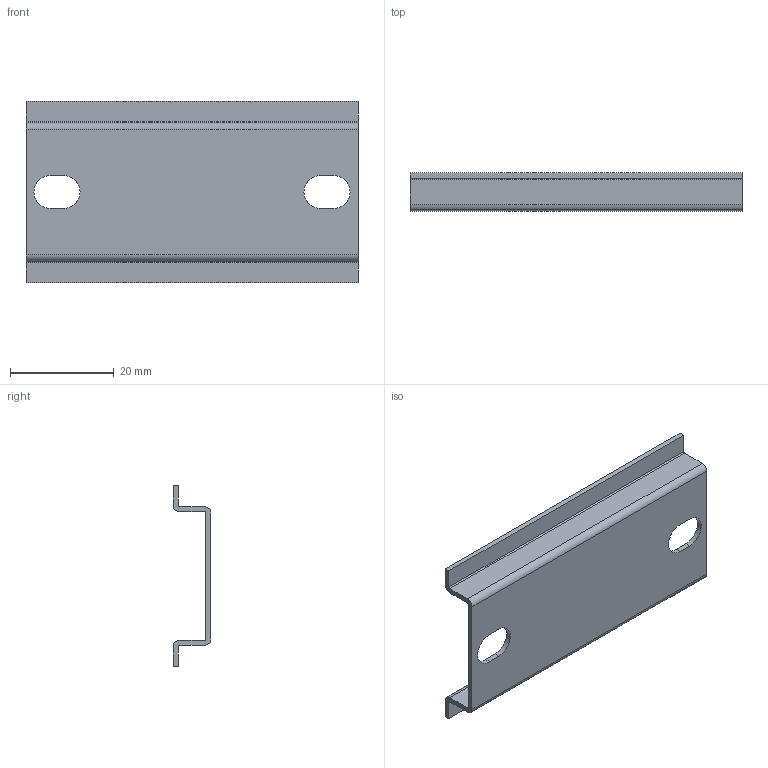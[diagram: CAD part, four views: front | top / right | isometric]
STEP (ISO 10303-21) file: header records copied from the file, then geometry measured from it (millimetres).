
FILE_DESCRIPTION (( 'STEP AP203' ), '1' );
FILE_NAME ('ccadr8s1.STEP', '2010-07-13T14:43:13', ( 'Hoffman User' ), ( 'Hoffman Enclosures' ), 'SwSTEP 2.0', 'SolidWorks 2009', '' );
FILE_SCHEMA (( 'CONFIG_CONTROL_DESIGN' ));
Length unit declared in the file: inch
Products named in the file (1): ccadr8s1
Bounding box: 64.01 x 7.29 x 34.92 mm (x, y, z)
Volume: 2837 mm3; surface area: 5995.9 mm2
Topology: 1 solids, 1 shells, 30 faces, 84 edges, 56 vertices
Faces by surface type: plane 18, cylinder 12
Entity records: 1059 total; most frequent: CARTESIAN_POINT 171, DIRECTION 170, ORIENTED_EDGE 168, EDGE_CURVE 84, VECTOR 60, LINE 60, VERTEX_POINT 56, AXIS2_PLACEMENT_3D 55
